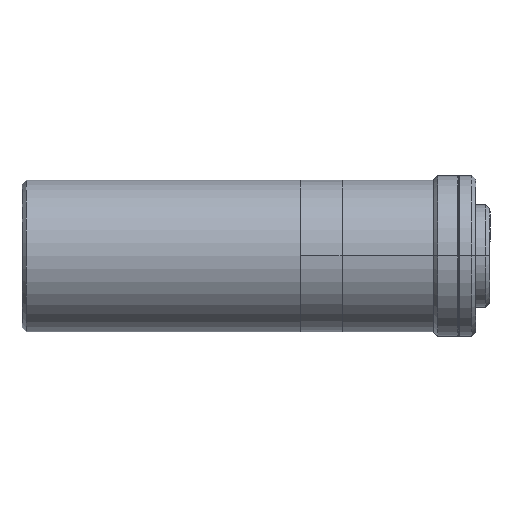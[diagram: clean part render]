
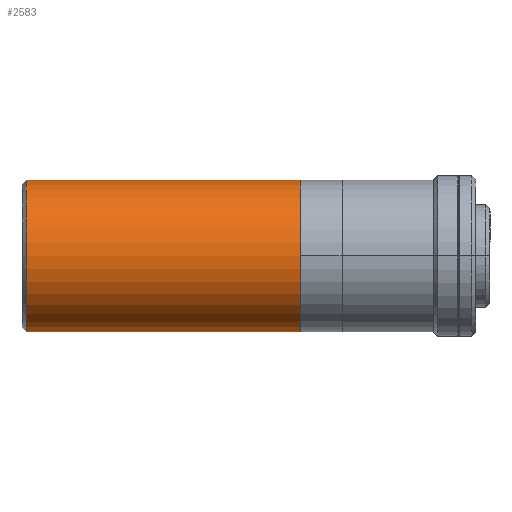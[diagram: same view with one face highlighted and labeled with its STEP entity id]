
A CAD part, top view. The second image highlights one B-rep face of the part: STEP entity #2583.
In plain terms, the highlighted face is a revolution surface.
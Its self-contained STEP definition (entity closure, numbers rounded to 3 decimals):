
#2583 = ADVANCED_FACE('',(#2584),#2598,.T.);
#2584 = FACE_BOUND('',#2585,.T.);
#2585 = EDGE_LOOP('',(#2586,#2611,#2627,#2642));
#2586 = ORIENTED_EDGE('',*,*,#2587,.F.);
#2587 = EDGE_CURVE('',#2588,#2590,#2592,.T.);
#2588 = VERTEX_POINT('',#2589);
#2589 = CARTESIAN_POINT('',(13.1,18.85,0.));
#2590 = VERTEX_POINT('',#2591);
#2591 = CARTESIAN_POINT('',(-55.1,18.85,0.));
#2592 = SURFACE_CURVE('',#2593,(#2597),.PCURVE_S1.);
#2593 = LINE('',#2594,#2595);
#2594 = CARTESIAN_POINT('',(13.1,18.85,0.));
#2595 = VECTOR('',#2596,1.);
#2596 = DIRECTION('',(-1.,0.,0.));
#2597 = PCURVE('',#2598,#2606);
#2598 = SURFACE_OF_REVOLUTION('',#2599,#2603);
#2599 = LINE('',#2600,#2601);
#2600 = CARTESIAN_POINT('',(-55.1,18.85,0.));
#2601 = VECTOR('',#2602,1.);
#2602 = DIRECTION('',(1.,0.,0.));
#2603 = AXIS1_PLACEMENT('',#2604,#2605);
#2604 = CARTESIAN_POINT('',(0.,0.,0.));
#2605 = DIRECTION('',(-1.,0.,0.));
#2606 = DEFINITIONAL_REPRESENTATION('',(#2607),#2610);
#2607 = B_SPLINE_CURVE_WITH_KNOTS('',1,(#2608,#2609),.UNSPECIFIED.,.F.,
  .F.,(2,2),(0.,68.2),.PIECEWISE_BEZIER_KNOTS.);
#2608 = CARTESIAN_POINT('',(6.283,68.2));
#2609 = CARTESIAN_POINT('',(6.283,0.));
#2610 = ( GEOMETRIC_REPRESENTATION_CONTEXT(2) 
PARAMETRIC_REPRESENTATION_CONTEXT() REPRESENTATION_CONTEXT('',''
  ) );
#2611 = ORIENTED_EDGE('',*,*,#2612,.F.);
#2612 = EDGE_CURVE('',#2613,#2588,#2615,.T.);
#2613 = VERTEX_POINT('',#2614);
#2614 = CARTESIAN_POINT('',(13.1,-18.85,0.));
#2615 = SURFACE_CURVE('',#2616,(#2621),.PCURVE_S1.);
#2616 = CIRCLE('',#2617,18.85);
#2617 = AXIS2_PLACEMENT_3D('',#2618,#2619,#2620);
#2618 = CARTESIAN_POINT('',(13.1,0.,0.));
#2619 = DIRECTION('',(-1.,0.,0.));
#2620 = DIRECTION('',(0.,-1.,0.));
#2621 = PCURVE('',#2598,#2622);
#2622 = DEFINITIONAL_REPRESENTATION('',(#2623),#2626);
#2623 = B_SPLINE_CURVE_WITH_KNOTS('',1,(#2624,#2625),.UNSPECIFIED.,.F.,
  .F.,(2,2),(0.,3.142),.PIECEWISE_BEZIER_KNOTS.);
#2624 = CARTESIAN_POINT('',(3.142,68.2));
#2625 = CARTESIAN_POINT('',(6.283,68.2));
#2626 = ( GEOMETRIC_REPRESENTATION_CONTEXT(2) 
PARAMETRIC_REPRESENTATION_CONTEXT() REPRESENTATION_CONTEXT('',''
  ) );
#2627 = ORIENTED_EDGE('',*,*,#2628,.F.);
#2628 = EDGE_CURVE('',#2629,#2613,#2631,.T.);
#2629 = VERTEX_POINT('',#2630);
#2630 = CARTESIAN_POINT('',(-55.1,-18.85,0.));
#2631 = SURFACE_CURVE('',#2632,(#2636),.PCURVE_S1.);
#2632 = LINE('',#2633,#2634);
#2633 = CARTESIAN_POINT('',(-55.1,-18.85,0.));
#2634 = VECTOR('',#2635,1.);
#2635 = DIRECTION('',(1.,0.,0.));
#2636 = PCURVE('',#2598,#2637);
#2637 = DEFINITIONAL_REPRESENTATION('',(#2638),#2641);
#2638 = B_SPLINE_CURVE_WITH_KNOTS('',1,(#2639,#2640),.UNSPECIFIED.,.F.,
  .F.,(2,2),(0.,68.2),.PIECEWISE_BEZIER_KNOTS.);
#2639 = CARTESIAN_POINT('',(3.142,0.));
#2640 = CARTESIAN_POINT('',(3.142,68.2));
#2641 = ( GEOMETRIC_REPRESENTATION_CONTEXT(2) 
PARAMETRIC_REPRESENTATION_CONTEXT() REPRESENTATION_CONTEXT('',''
  ) );
#2642 = ORIENTED_EDGE('',*,*,#2643,.F.);
#2643 = EDGE_CURVE('',#2590,#2629,#2644,.T.);
#2644 = SURFACE_CURVE('',#2645,(#2650),.PCURVE_S1.);
#2645 = CIRCLE('',#2646,18.85);
#2646 = AXIS2_PLACEMENT_3D('',#2647,#2648,#2649);
#2647 = CARTESIAN_POINT('',(-55.1,0.,0.));
#2648 = DIRECTION('',(1.,0.,0.));
#2649 = DIRECTION('',(0.,1.,0.));
#2650 = PCURVE('',#2598,#2651);
#2651 = DEFINITIONAL_REPRESENTATION('',(#2652),#2655);
#2652 = B_SPLINE_CURVE_WITH_KNOTS('',1,(#2653,#2654),.UNSPECIFIED.,.F.,
  .F.,(2,2),(0.,3.142),.PIECEWISE_BEZIER_KNOTS.);
#2653 = CARTESIAN_POINT('',(6.283,0.));
#2654 = CARTESIAN_POINT('',(3.142,0.));
#2655 = ( GEOMETRIC_REPRESENTATION_CONTEXT(2) 
PARAMETRIC_REPRESENTATION_CONTEXT() REPRESENTATION_CONTEXT('',''
  ) );
